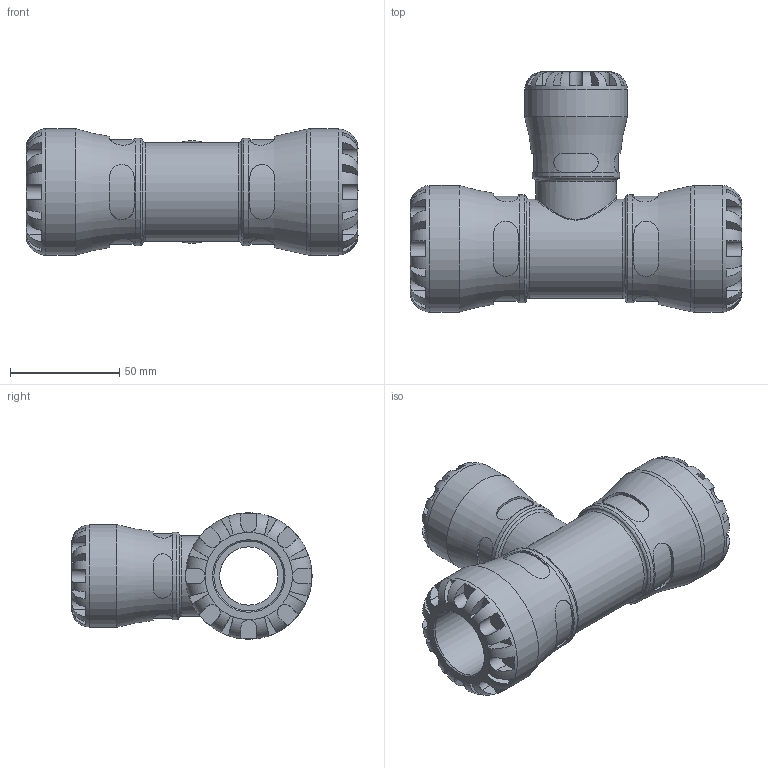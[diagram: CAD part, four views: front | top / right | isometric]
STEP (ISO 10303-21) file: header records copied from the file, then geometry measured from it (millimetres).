
FILE_DESCRIPTION(/* description */ ('PLASSON REDUCING TEE 32X25X32 SERIES 1'),/* implementation_level */ '2;1');
FILE_NAME(/* name */ 'C:\Dropbox\KIMPROJECTS-Inventor\99-16-3568-Processing\1034\103400032025_193400032025.ipt.stp',/* time_stamp */ '2017-01-22T11:40:40+02:00',/* author */ ('KIM'),/* organization */ (''),/* preprocessor_version */ 'ST-DEVELOPER v15.6',/* originating_system */ 'Autodesk Inventor 2015',/* authorisation */ '');
FILE_SCHEMA (('AUTOMOTIVE_DESIGN { 1 0 10303 214 3 1 1 }'));
Length unit declared in the file: millimetre
Products named in the file (1): 103400032025_193400032025
Bounding box: 152 x 110 x 58 mm (x, y, z)
Volume: 248748.9 mm3; surface area: 60258.1 mm2
Topology: 1 solids, 1 shells, 287 faces, 732 edges, 459 vertices
Faces by surface type: plane 174, cylinder 97, torus 13, cone 2, bspline 1
Full cylindrical faces by diameter (mm): 20.833 x1, 25 x1, 26.667 x1, 32 x2, 36.66 x1, 39.95 x1, 45.24 x1, 47 x1, 49.3 x2, 58 x2
Entity records: 11286 total; most frequent: CARTESIAN_POINT 4476, ORIENTED_EDGE 1364, DIRECTION 1308, EDGE_CURVE 682, AXIS2_PLACEMENT_3D 534, VERTEX_POINT 441, EDGE_LOOP 335, STYLED_ITEM 288
